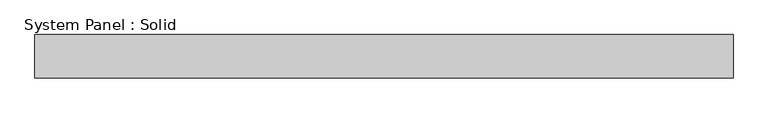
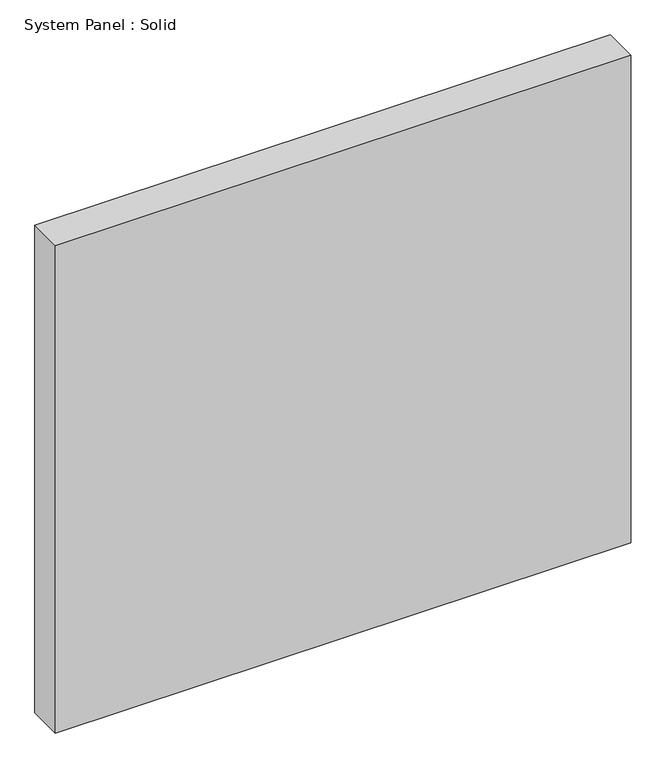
"""IFC4 building model written with IfcOpenShell, lengths in millimetres: plate geometry, System Panel : Solid."""

import ifcopenshell
import ifcopenshell.guid

model = None  # the IFC model being written
_history = None  # IfcOwnerHistory: only IFC2X3 demands one
_inside = {}  # id of a spatial element -> (the spatial element, [elements in it])
_under = {}  # id of a project, library or spatial element -> (it, [spatial elements below it])
_declared = {}  # id of a project -> (the project, [libraries it declares])
_typed = {}  # id of a type object -> (the type object, [elements of that type])
_made_of = {}  # id of a material, layer set ... -> (it, [elements and type objects made of it])


def new_model(schema):
    """Start an empty IFC model of exactly this schema.

    Asked for "IFC4X3", IfcOpenShell would pick the latest addendum, in which some entities
    have other attributes; the version numbers below select the first issue.
    IFC2X3 requires an IfcOwnerHistory on every rooted entity: one is made here for all.
    """
    global model, _history
    if schema == "IFC4X3":
        model = ifcopenshell.file(schema_version=(4, 3, 0, 0))
    else:
        model = ifcopenshell.file(schema=schema)
    _inside.clear()
    _under.clear()
    _declared.clear()
    _typed.clear()
    _made_of.clear()
    _history = None
    if model.schema == "IFC2X3":
        org = make("IfcOrganization", Name="unknown")
        user = make(
            "IfcPersonAndOrganization",
            ThePerson=make("IfcPerson", FamilyName="unknown"),
            TheOrganization=org,
        )
        app = make(
            "IfcApplication",
            ApplicationDeveloper=org,
            Version="unknown",
            ApplicationFullName="unknown",
            ApplicationIdentifier="unknown",
        )
        _history = make(
            "IfcOwnerHistory",
            OwningUser=user,
            OwningApplication=app,
            ChangeAction="ADDED",
            CreationDate=0,
        )
    return model


def make(cls, **values):
    """One entity of the class cls with the attributes given. An attribute that is None is left unset."""
    return model.create_entity(
        cls, **{name: value for name, value in values.items() if value is not None}
    )


def rooted(cls, **values):
    """An entity with a GlobalId (a new one), such as an element, a storey or a relation."""
    return make(cls, GlobalId=ifcopenshell.guid.new(), OwnerHistory=_history, **values)


def si_unit(unit_type, name, prefix=None):
    """IfcSIUnit, for example si_unit("LENGTHUNIT", "METRE", prefix="MILLI")."""
    return make("IfcSIUnit", UnitType=unit_type, Prefix=prefix, Name=name)


def assignment(units):
    """IfcUnitAssignment: the units of a project."""
    return None if units is None else make("IfcUnitAssignment", Units=units)


def point(xyz):
    """IfcCartesianPoint."""
    return None if xyz is None else make("IfcCartesianPoint", Coordinates=xyz)


def direction(xyz):
    """IfcDirection."""
    return None if xyz is None else make("IfcDirection", DirectionRatios=xyz)


def frame(location, z_axis=None, x_axis=None):
    """IfcAxis2Placement3D, a coordinate frame: its origin and axes. An axis left out is left unset."""
    return make(
        "IfcAxis2Placement3D",
        Location=point(location),
        Axis=direction(z_axis),
        RefDirection=direction(x_axis),
    )


def origin():
    """The frame at (0, 0, 0) with its axes left unset."""
    return frame((0.0, 0.0, 0.0))


def origin_with_axes():
    """The frame at (0, 0, 0) with the z axis (0, 0, 1) and the x axis (1, 0, 0) written out."""
    return frame((0.0, 0.0, 0.0), z_axis=(0.0, 0.0, 1.0), x_axis=(1.0, 0.0, 0.0))


def place(relative_to, where):
    """IfcLocalPlacement: puts the frame where relative to a parent placement (None: the world)."""
    return make(
        "IfcLocalPlacement", PlacementRelTo=relative_to, RelativePlacement=where
    )


def context(
    kind, dimensions, precision=None, world=None, true_north=None, identifier=None
):
    """IfcGeometricRepresentationContext, for example the 3D "Model" context."""
    return make(
        "IfcGeometricRepresentationContext",
        ContextIdentifier=identifier,
        ContextType=kind,
        CoordinateSpaceDimension=dimensions,
        Precision=precision,
        WorldCoordinateSystem=world,
        TrueNorth=true_north,
    )


def project(units=None, contexts=None):
    """IfcProject with its units and contexts."""
    return rooted(
        "IfcProject",
        Name="project",
        RepresentationContexts=contexts,
        UnitsInContext=assignment(units),
    )


def spatial(cls, under=None, at=None, **own):
    """A site, building, storey or space (cls), placed at a placement, below another one or the project."""
    s = rooted(cls, ObjectPlacement=at, **own)
    if under is not None:
        _under.setdefault(under.id(), (under, []))[1].append(s)
    return s


def polyline(points):
    """IfcPolyline through the points."""
    return make("IfcPolyline", Points=[point(p) for p in points])


def outline(outer, holes=None, kind="AREA"):
    """IfcArbitraryClosedProfileDef: a profile drawn as a closed curve; with holes, ...WithVoids."""
    if holes is None:
        return make("IfcArbitraryClosedProfileDef", ProfileType=kind, OuterCurve=outer)
    return make(
        "IfcArbitraryProfileDefWithVoids",
        ProfileType=kind,
        OuterCurve=outer,
        InnerCurves=holes,
    )


def extrude(swept, where, along, depth):
    """IfcExtrudedAreaSolid: the profile swept, set in the frame where, extruded along a direction by depth."""
    return make(
        "IfcExtrudedAreaSolid",
        SweptArea=swept,
        Position=where,
        ExtrudedDirection=direction(along),
        Depth=depth,
    )


def shape(context_of_items, identifier, shape_type, items):
    """IfcShapeRepresentation: the items that make up one representation, for example the "Body"."""
    return make(
        "IfcShapeRepresentation",
        ContextOfItems=context_of_items,
        RepresentationIdentifier=identifier,
        RepresentationType=shape_type,
        Items=items,
    )


def source(mapping_origin, context_of_items, identifier, shape_type, items):
    """IfcRepresentationMap: a shape defined once, which mapped items show again and again."""
    return make(
        "IfcRepresentationMap",
        MappingOrigin=mapping_origin,
        MappedRepresentation=shape(context_of_items, identifier, shape_type, items),
    )


def transform(
    local_origin,
    x_axis=None,
    y_axis=None,
    z_axis=None,
    scale=None,
    scale2=None,
    scale3=None,
    uniform=True,
):
    """IfcCartesianTransformationOperator3D, or its non-uniform kind. x_axis, y_axis, z_axis: its Axis1, 2, 3."""
    if uniform:
        return make(
            "IfcCartesianTransformationOperator3D",
            Axis1=direction(x_axis),
            Axis2=direction(y_axis),
            LocalOrigin=point(local_origin),
            Scale=scale,
            Axis3=direction(z_axis),
        )
    return make(
        "IfcCartesianTransformationOperator3DnonUniform",
        Axis1=direction(x_axis),
        Axis2=direction(y_axis),
        LocalOrigin=point(local_origin),
        Scale=scale,
        Axis3=direction(z_axis),
        Scale2=scale2,
        Scale3=scale3,
    )


def mapped(mapping_source, mapping_target):
    """IfcMappedItem: shows the shape of a source again, moved by a transform."""
    return make(
        "IfcMappedItem", MappingSource=mapping_source, MappingTarget=mapping_target
    )


def made_of(thing, what):
    """Note that an element or type object is made of a material, layer set ...; save() writes the relation."""
    if what is not None:
        _made_of.setdefault(what.id(), (what, []))[1].append(thing)
    return thing


def element(
    cls,
    number,
    at=None,
    inside=None,
    cuts=None,
    type_object=None,
    material=None,
    context=None,
    identifier="Body",
    shape_type=None,
    held_by="IfcProductDefinitionShape",
    body=None,
    shapes=None,
    **own,
):
    """One element of the class cls, such as IfcWall. Its Tag is "e" and its number.

    at: its placement. inside: the storey or other place that contains it. cuts: it is an
    opening in that element (IfcRelVoidsElement). A single representation is given by context,
    identifier, shape_type and body (its items); several are given by shapes. held_by: the class
    of the entity that holds the representations. save() writes the other relations.
    """
    e = rooted(cls, Tag="e%d" % number, ObjectPlacement=at, **own)
    if body is not None:
        shapes = [shape(context, identifier, shape_type, body)]
    if shapes is not None:
        e.Representation = make(held_by, Representations=shapes)
    if inside is not None:
        _inside.setdefault(inside.id(), (inside, []))[1].append(e)
    if cuts is not None:
        rooted(
            "IfcRelVoidsElement", RelatingBuildingElement=cuts, RelatedOpeningElement=e
        )
    if type_object is not None:
        _typed.setdefault(type_object.id(), (type_object, []))[1].append(e)
    return made_of(e, material)


def aggregate(whole, parts):
    """IfcRelAggregates: a whole, such as a stair, and the parts it consists of."""
    return rooted("IfcRelAggregates", RelatingObject=whole, RelatedObjects=parts)


def save(model, path):
    """Write the relations noted so far, then the file.

    IfcRelAggregates (storeys below a building ...), IfcRelContainedInSpatialStructure (elements
    in a storey), IfcRelDefinesByType, IfcRelAssociatesMaterial and IfcRelDeclares: one each for
    every whole, place, type object, material and project.
    """
    for whole, parts in _under.values():
        aggregate(whole, parts)
    for where, things in _inside.values():
        rooted(
            "IfcRelContainedInSpatialStructure",
            RelatedElements=things,
            RelatingStructure=where,
        )
    for kind, things in _typed.values():
        rooted("IfcRelDefinesByType", RelatedObjects=things, RelatingType=kind)
    for what, things in _made_of.values():
        rooted("IfcRelAssociatesMaterial", RelatedObjects=things, RelatingMaterial=what)
    for by, libraries in _declared.values():
        rooted("IfcRelDeclares", RelatingContext=by, RelatedDefinitions=libraries)
    model.write(path)


def system_panel_solid_743f3f24(model_context):
    return source(origin(), model_context, "Body", "SweptSolid", [
        extrude(outline(polyline([(514.35, -19.05), (-514.35, -19.05), (-514.35, 44.45), (514.35, 44.45), (514.35, -19.05)])), origin_with_axes(), (0.0, 0.0, 1.0), 920.75),
    ])


if __name__ == "__main__":
    model = new_model("IFC4")
    model_context = context("Model", 3, world=origin())
    ifc_project = project(units=[si_unit("LENGTHUNIT", "METRE", prefix="MILLI")], contexts=[model_context])
    site = spatial("IfcSite", under=ifc_project)
    building = spatial("IfcBuilding", under=site)
    placement = place(None, origin())
    system_panel_solid_shape = system_panel_solid_743f3f24(model_context)
    element("IfcPlate", 1, ObjectType="System Panel : Solid", at=placement, inside=building, context=model_context, shape_type="MappedRepresentation", body=[
        mapped(system_panel_solid_shape, transform((0.0, 0.0, 0.0), x_axis=(1.0, 0.0, 0.0), y_axis=(0.0, 1.0, 0.0), z_axis=(0.0, 0.0, 1.0))),
    ])
    save(model, "model.ifc")
